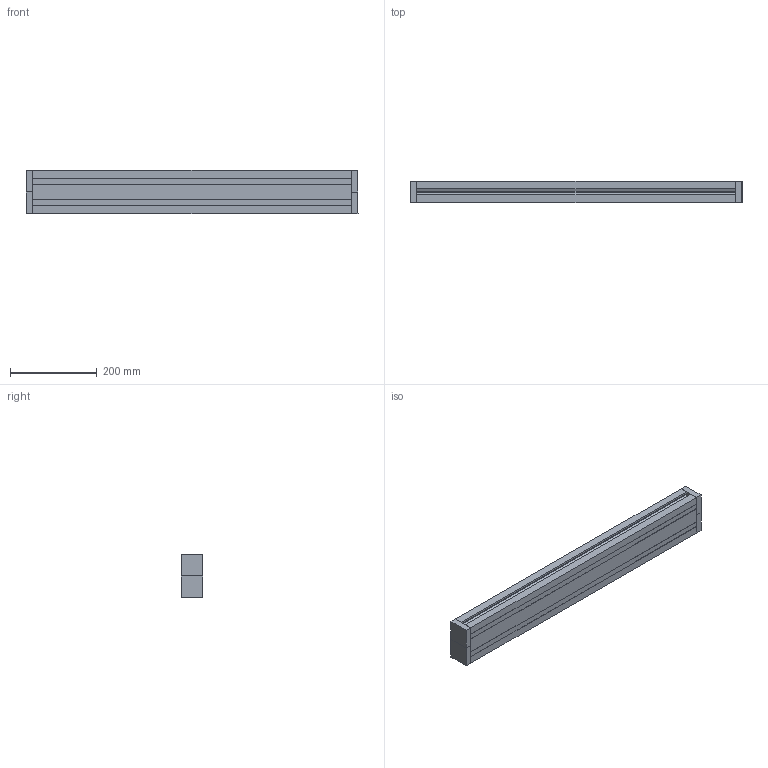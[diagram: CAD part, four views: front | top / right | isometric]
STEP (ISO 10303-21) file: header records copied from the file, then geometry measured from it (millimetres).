
FILE_DESCRIPTION (( 'STEP AP214' ), '1' );
FILE_NAME ('PIL5010SNN-735MM.STEP', '2021-03-08T22:53:35', ( '' ), ( '' ), 'SwSTEP 2.0', 'SolidWorks 2021', '' );
FILE_SCHEMA (( 'AUTOMOTIVE_DESIGN' ));
Length unit declared in the file: inch
Products named in the file (1): PIL5010SNN-735MM
Bounding box: 765.5 x 50 x 100 mm (x, y, z)
Volume: 2049674 mm3; surface area: 679370.1 mm2
Topology: 7 solids, 7 shells, 136 faces, 366 edges, 244 vertices
Faces by surface type: plane 130, cylinder 6
Entity records: 6068 total; most frequent: CARTESIAN_POINT 747, ORIENTED_EDGE 732, DIRECTION 652, EDGE_CURVE 366, LINE 354, VECTOR 354, VERTEX_POINT 244, AXIS2_PLACEMENT_3D 149
